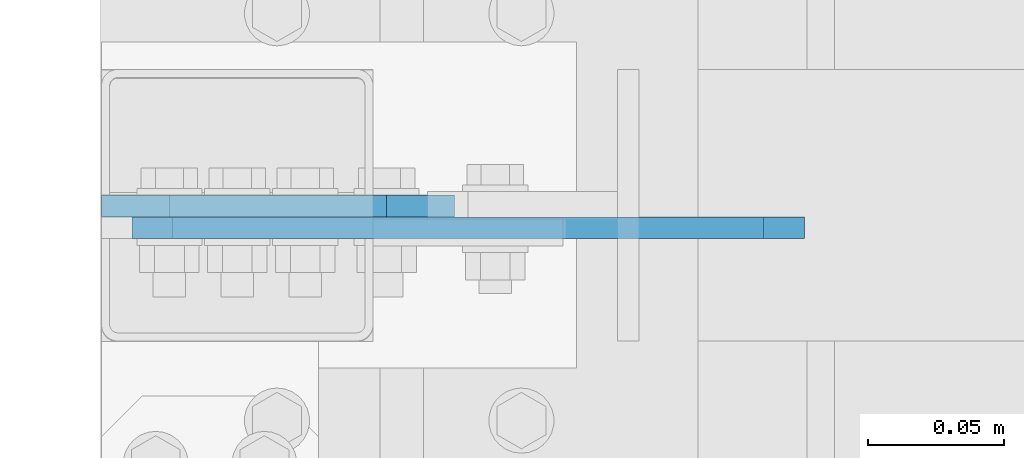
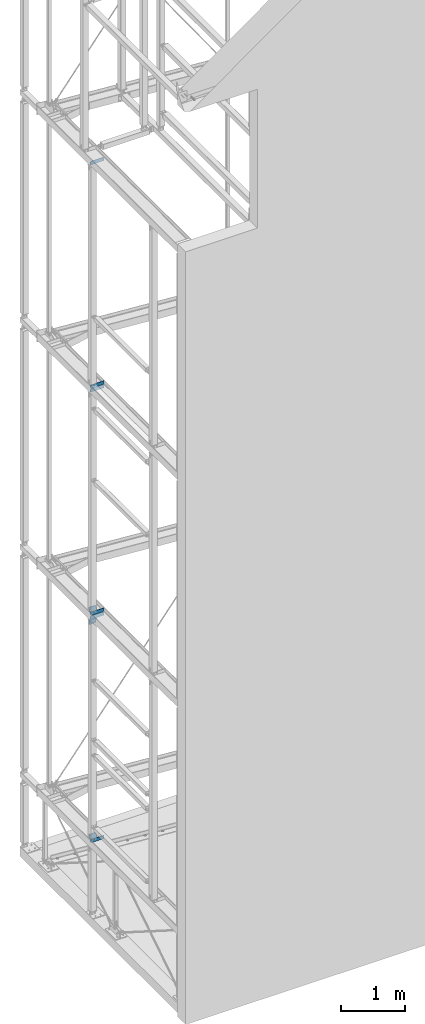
# One storey, part 114 of 271: 9 plates, 6 elements without a shape of their own.
"""IFC2X3 building model written with IfcOpenShell, lengths in millimetres."""

from ifc_helpers import new_model, si_unit, frame, origin_with_axes, place, context, subcontext, project, spatial, polyline, outline, extrude, material, type_object, element, aggregate, save


model = new_model("IFC2X3")

# Units and contexts
model_context = context("Model", 3, precision=1e-05, world=origin_with_axes())
body_context = subcontext(model_context, "Body", "Model", "MODEL_VIEW")
ifc_project = project(units=[si_unit("LENGTHUNIT", "METRE", prefix="MILLI"), si_unit("AREAUNIT", "SQUARE_METRE"), si_unit("VOLUMEUNIT", "CUBIC_METRE"), si_unit("MASSUNIT", "GRAM", prefix="KILO"), si_unit("TIMEUNIT", "SECOND"), si_unit("PLANEANGLEUNIT", "RADIAN"), si_unit("SOLIDANGLEUNIT", "STERADIAN"), si_unit("THERMODYNAMICTEMPERATUREUNIT", "DEGREE_CELSIUS"), si_unit("LUMINOUSINTENSITYUNIT", "LUMEN")], contexts=[model_context])

# Site, building, storey
site_placement = place(None, origin_with_axes())
site = spatial("IfcSite", under=ifc_project, at=site_placement, Name="Undefined", CompositionType="ELEMENT")
building_placement = place(site_placement, origin_with_axes())
building = spatial("IfcBuilding", under=site, at=building_placement, Name="Undefined", CompositionType="ELEMENT")
storey_placement = place(building_placement, origin_with_axes())
storey = spatial("IfcBuildingStorey", under=building, at=storey_placement, Name="Undefined", CompositionType="ELEMENT", Elevation=0.0)

# Assembly, plate
assembly_1_placement = place(storey_placement, origin_with_axes())
assembly_1 = element("IfcElementAssembly", 1, at=assembly_1_placement, inside=storey, AssemblyPlace="NOTDEFINED", PredefinedType="RIGID_FRAME")
ifc_material = material(Name="STEEL/S355JR")
plate_type_1 = type_object("IfcPlateType", Name="BL8*130", PredefinedType="NOTDEFINED")
plate_1_placement = place(assembly_1_placement, frame((118.375687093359, 2799.05211980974, 5851.84999990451), z_axis=(0.0, 1.0, 0.0), x_axis=(0.0, 0.0, -1.0)))
plate_1 = element("IfcPlate", 2, at=plate_1_placement, type_object=plate_type_1, material=ifc_material, Name="BLACHA", ObjectType="BL8*130", context=body_context, shape_type="SweptSolid", body=[
    extrude(outline(polyline([(0.0, 25.0), (70.0, -8.66862137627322e-13), (150.0, -1.68398628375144e-12), (150.0, 105.0), (90.0, 105.0), (90.0, 130.0), (-3.5527136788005e-14, 130.0), (0.0, 25.0)])), frame((0.0, 0.0, -4.0), z_axis=(0.0, 0.0, 1.0), x_axis=(1.0, 0.0, 0.0)), (0.0, 0.0, 1.0), 8.0),
])
aggregate(assembly_1, [plate_1])

# Assembly, plates
assembly_2_placement = place(storey_placement, origin_with_axes())
assembly_2 = element("IfcElementAssembly", 3, at=assembly_2_placement, inside=storey, AssemblyPlace="NOTDEFINED", PredefinedType="RIGID_FRAME")
plate_2_placement = place(assembly_2_placement, frame((118.375687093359, 2799.05211980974, 5516.84999990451), z_axis=(0.0, -1.0, 0.0), x_axis=(0.0, 0.0, 1.0)))
plate_2 = element("IfcPlate", 4, at=plate_2_placement, type_object=plate_type_1, material=ifc_material, Name="BLACHA", ObjectType="BL8*130", context=body_context, shape_type="SweptSolid", body=[
    extrude(outline(polyline([(0.0, 25.0), (70.0, -8.66862137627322e-13), (155.0, -2.06057393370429e-12), (155.0, 105.0), (94.9999999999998, 105.0), (94.9999999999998, 130.0), (-3.5527136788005e-14, 130.0), (0.0, 25.0)])), frame((0.0, 0.0, -4.0), z_axis=(0.0, 0.0, 1.0), x_axis=(1.0, 0.0, 0.0)), (0.0, 0.0, 1.0), 8.0),
])
plate_3_placement = place(assembly_2_placement, frame((118.375687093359, 2799.05211980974, 1531.84999990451), z_axis=(0.0, 1.0, 0.0), x_axis=(0.0, 0.0, -1.0)))
plate_3 = element("IfcPlate", 5, at=plate_3_placement, type_object=plate_type_1, material=ifc_material, Name="BLACHA", ObjectType="BL8*130", context=body_context, shape_type="SweptSolid", body=[
    extrude(outline(polyline([(0.0, 25.0), (70.0, -8.66862137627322e-13), (150.0, -1.68398628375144e-12), (150.0, 105.0), (90.0, 105.0), (90.0, 130.0), (-3.5527136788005e-14, 130.0), (0.0, 25.0)])), frame((0.0, 0.0, -4.0), z_axis=(0.0, 0.0, 1.0), x_axis=(1.0, 0.0, 0.0)), (0.0, 0.0, 1.0), 8.0),
])
aggregate(assembly_2, [plate_2, plate_3])

# Assembly, plate
assembly_3_placement = place(storey_placement, origin_with_axes())
assembly_3 = element("IfcElementAssembly", 6, at=assembly_3_placement, inside=storey, AssemblyPlace="NOTDEFINED", PredefinedType="RIGID_FRAME")
plate_type_2 = type_object("IfcPlateType", Name="BL8*64", PredefinedType="NOTDEFINED")
plate_4_placement = place(assembly_3_placement, frame((-0.42431309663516, 2791.05211980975, 14256.8499999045), z_axis=(0.0, 1.0, 0.0), x_axis=(0.0, 0.0, 1.0)))
plate_4 = element("IfcPlate", 7, at=plate_4_placement, type_object=plate_type_2, material=ifc_material, Name="BLACHA", ObjectType="BL8*64", context=body_context, shape_type="SweptSolid", body=[
    extrude(outline(polyline([(0.0, 0.0), (49.1999969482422, 0.0), (64.1999969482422, 15.0), (64.1999969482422, 232.600006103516), (49.1999969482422, 247.600006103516), (0.0, 247.600006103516), (0.0, 0.0)])), frame((0.0, 0.0, -4.0), z_axis=(0.0, 0.0, 1.0), x_axis=(1.0, 0.0, 0.0)), (0.0, 0.0, 1.0), 8.0),
])
aggregate(assembly_3, [plate_4])

# Assembly, plates
assembly_4_placement = place(storey_placement, origin_with_axes())
assembly_4 = element("IfcElementAssembly", 8, at=assembly_4_placement, inside=storey, AssemblyPlace="NOTDEFINED", PredefinedType="RIGID_FRAME")
plate_5_placement = place(assembly_4_placement, frame((-0.42431309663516, 2791.05211980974, 9936.84999990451), z_axis=(0.0, 1.0, 0.0), x_axis=(0.0, 0.0, 1.0)))
plate_5 = element("IfcPlate", 9, at=plate_5_placement, type_object=plate_type_2, material=ifc_material, Name="BLACHA", ObjectType="BL8*64", context=body_context, shape_type="SweptSolid", body=[
    extrude(outline(polyline([(0.0, 0.0), (49.1999969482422, 0.0), (64.1999969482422, 15.0), (64.1999969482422, 232.600006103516), (49.1999969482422, 247.600006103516), (0.0, 247.600006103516), (0.0, 0.0)])), frame((0.0, 0.0, -4.0), z_axis=(0.0, 0.0, 1.0), x_axis=(1.0, 0.0, 0.0)), (0.0, 0.0, 1.0), 8.0),
])
plate_6_placement = place(assembly_4_placement, frame((-0.42431309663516, 2791.05211980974, 10007.649999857), z_axis=(0.0, 1.0, 0.0), x_axis=(0.0, 0.0, 1.0)))
plate_6 = element("IfcPlate", 10, at=plate_6_placement, type_object=plate_type_2, material=ifc_material, Name="BLACHA", ObjectType="BL8*64", context=body_context, shape_type="SweptSolid", body=[
    extrude(outline(polyline([(0.0, 15.0), (15.0, -1.59872115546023e-14), (64.1999969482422, -1.77635683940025e-14), (64.1999969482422, 247.600006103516), (15.0, 247.600006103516), (0.0, 232.600006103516), (0.0, 15.0)])), frame((0.0, 0.0, -4.0), z_axis=(0.0, 0.0, 1.0), x_axis=(1.0, 0.0, 0.0)), (0.0, 0.0, 1.0), 8.0),
])
aggregate(assembly_4, [plate_5, plate_6])

assembly_5_placement = place(storey_placement, origin_with_axes())
assembly_5 = element("IfcElementAssembly", 11, at=assembly_5_placement, inside=storey, AssemblyPlace="NOTDEFINED", PredefinedType="RIGID_FRAME")
plate_7_placement = place(assembly_5_placement, frame((-0.42431309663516, 2791.05211980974, 5616.84999990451), z_axis=(0.0, 1.0, 0.0), x_axis=(0.0, 0.0, 1.0)))
plate_7 = element("IfcPlate", 12, at=plate_7_placement, type_object=plate_type_2, material=ifc_material, Name="BLACHA", ObjectType="BL8*64", context=body_context, shape_type="SweptSolid", body=[
    extrude(outline(polyline([(0.0, 0.0), (49.1999969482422, 0.0), (64.1999969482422, 15.0), (64.1999969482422, 232.600006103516), (49.1999969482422, 247.600006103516), (0.0, 247.600006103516), (0.0, 0.0)])), frame((0.0, 0.0, -4.0), z_axis=(0.0, 0.0, 1.0), x_axis=(1.0, 0.0, 0.0)), (0.0, 0.0, 1.0), 8.0),
])
plate_8_placement = place(assembly_5_placement, frame((-0.42431309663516, 2791.05211980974, 5687.64999985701), z_axis=(0.0, 1.0, 0.0), x_axis=(0.0, 0.0, 1.0)))
plate_8 = element("IfcPlate", 13, at=plate_8_placement, type_object=plate_type_2, material=ifc_material, Name="BLACHA", ObjectType="BL8*64", context=body_context, shape_type="SweptSolid", body=[
    extrude(outline(polyline([(0.0, 15.0), (15.0, -1.59872115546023e-14), (64.1999969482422, -1.77635683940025e-14), (64.1999969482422, 247.600006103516), (15.0, 247.600006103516), (0.0, 232.600006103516), (0.0, 15.0)])), frame((0.0, 0.0, -4.0), z_axis=(0.0, 0.0, 1.0), x_axis=(1.0, 0.0, 0.0)), (0.0, 0.0, 1.0), 8.0),
])
aggregate(assembly_5, [plate_7, plate_8])

# Assembly, plate
assembly_6_placement = place(storey_placement, origin_with_axes())
assembly_6 = element("IfcElementAssembly", 14, at=assembly_6_placement, inside=storey, AssemblyPlace="NOTDEFINED", PredefinedType="RIGID_FRAME")
plate_9_placement = place(assembly_6_placement, frame((-0.42431309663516, 2791.05211980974, 1367.64999985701), z_axis=(0.0, 1.0, 0.0), x_axis=(0.0, 0.0, 1.0)))
plate_9 = element("IfcPlate", 15, at=plate_9_placement, type_object=plate_type_2, material=ifc_material, Name="BLACHA", ObjectType="BL8*64", context=body_context, shape_type="SweptSolid", body=[
    extrude(outline(polyline([(0.0, 15.0), (15.0, -1.59872115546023e-14), (64.1999969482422, -1.77635683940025e-14), (64.1999969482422, 247.600006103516), (15.0, 247.600006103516), (0.0, 232.600006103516), (0.0, 15.0)])), frame((0.0, 0.0, -4.0), z_axis=(0.0, 0.0, 1.0), x_axis=(1.0, 0.0, 0.0)), (0.0, 0.0, 1.0), 8.0),
])
aggregate(assembly_6, [plate_9])

save(model, "model.ifc")
